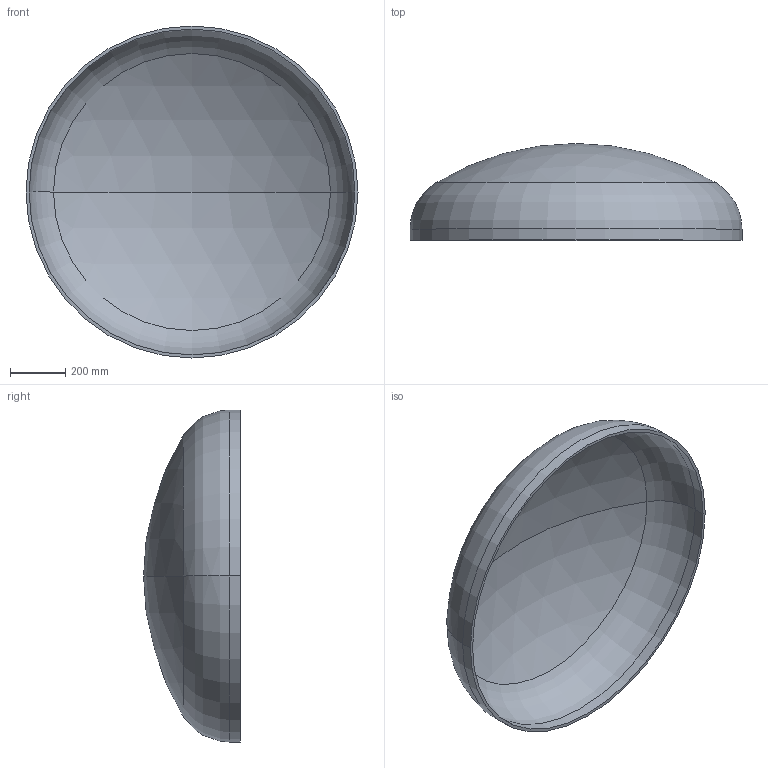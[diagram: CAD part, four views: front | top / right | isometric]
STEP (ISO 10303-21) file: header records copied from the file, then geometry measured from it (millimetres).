
FILE_DESCRIPTION (( 'STEP AP203' ), '1' );
FILE_NAME ('DIN 28013 Korbbogenform_-_Boden DIN 28013 - 1200 x 40 - I - s=11.step', '2016-07-01T09:20:47', ( '' ), ( '' ), 'SwSTEP 2.0', 'SolidWorks 2013', '' );
FILE_SCHEMA (( 'CONFIG_CONTROL_DESIGN' ));
Length unit declared in the file: millimetre
Products named in the file (1): DIN 28013 Korbbogenform_-_Boden DIN 28013 - 1200 x 40 - I - s=11
Bounding box: 1200 x 349.63 x 1200 mm (x, y, z)
Volume: 18669780.5 mm3; surface area: 3435846.6 mm2
Topology: 1 solids, 1 shells, 13 faces, 24 edges, 14 vertices
Faces by surface type: torus 4, cylinder 4, sphere 4, plane 1
Entity records: 407 total; most frequent: DIRECTION 72, CARTESIAN_POINT 52, ORIENTED_EDGE 48, AXIS2_PLACEMENT_3D 34, EDGE_CURVE 24, CIRCLE 20, VERTEX_POINT 14, EDGE_LOOP 14
